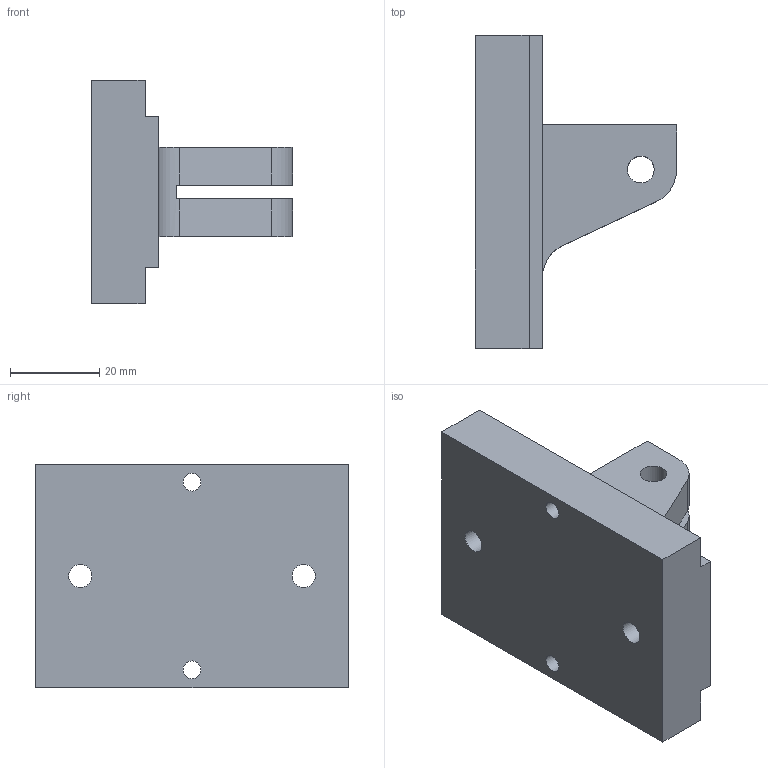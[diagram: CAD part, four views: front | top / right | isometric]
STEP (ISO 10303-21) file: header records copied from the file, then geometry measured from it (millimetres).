
FILE_DESCRIPTION(/* description */ (''),/* implementation_level */ '2;1');
FILE_NAME(/* name */ 'U:\Examens\TPP\TPP2022\Exercice 3-2022.stp',/* time_stamp */ '2021-02-12T09:59:22+01:00',/* author */ ('ma-tgo'),/* organization */ (''),/* preprocessor_version */ 'ST-DEVELOPER v18',/* originating_system */ 'Autodesk Inventor 2020',/* authorisation */ '');
FILE_SCHEMA (('AUTOMOTIVE_DESIGN { 1 0 10303 214 3 1 1 }'));
Length unit declared in the file: millimetre
Products named in the file (1): 3-2022-P
Bounding box: 45 x 70 x 50 mm (x, y, z)
Volume: 58720.2 mm3; surface area: 14760.5 mm2
Topology: 1 solids, 1 shells, 33 faces, 91 edges, 63 vertices
Faces by surface type: plane 22, cylinder 11
Full cylindrical faces by diameter (mm): 3.995 x2, 5.2 x2, 6 x2, 10 x2
Entity records: 1137 total; most frequent: DIRECTION 190, CARTESIAN_POINT 188, ORIENTED_EDGE 182, EDGE_CURVE 91, AXIS2_PLACEMENT_3D 65, VERTEX_POINT 63, LINE 60, VECTOR 60
